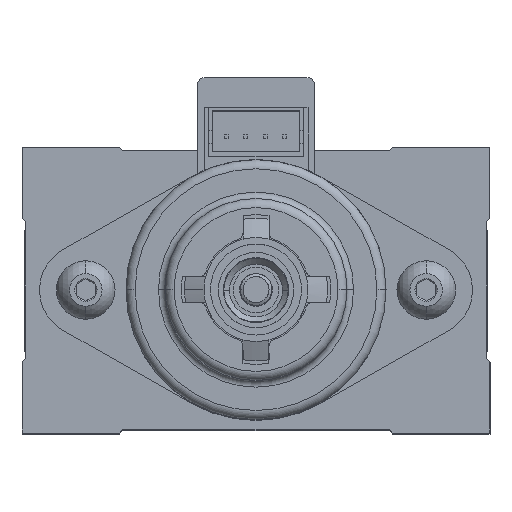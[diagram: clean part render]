
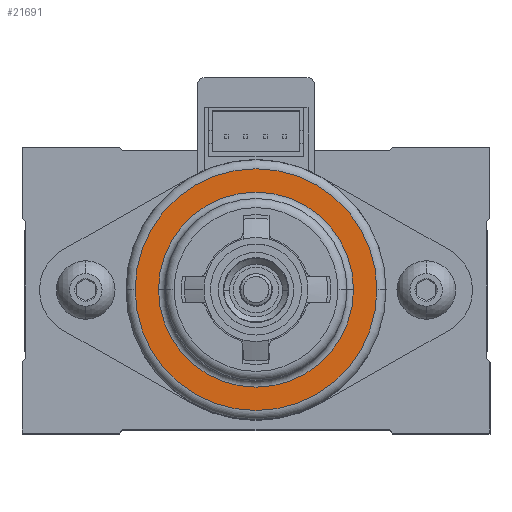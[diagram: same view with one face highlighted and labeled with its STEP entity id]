
A CAD part, top view. The second image highlights one B-rep face of the part: STEP entity #21691.
In plain terms, the highlighted planar face has unit normal (0, 0, 1).
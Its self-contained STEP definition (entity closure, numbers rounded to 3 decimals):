
#752 = DIRECTION ( 'NONE',  ( -1., 0., 0. ) ) ;
#955 = AXIS2_PLACEMENT_3D ( 'NONE', #29031, #4886, #21432 ) ;
#3091 = CARTESIAN_POINT ( 'NONE',  ( -9.3, 0., 7.21 ) ) ;
#3826 = CIRCLE ( 'NONE', #8386, 9.3 ) ;
#4886 = DIRECTION ( 'NONE',  ( 0., 0., -1. ) ) ;
#5105 = AXIS2_PLACEMENT_3D ( 'NONE', #14670, #9753, #29150 ) ;
#5634 = EDGE_CURVE ( 'NONE', #20329, #22078, #12265, .T. ) ;
#8386 = AXIS2_PLACEMENT_3D ( 'NONE', #25562, #23456, #11217 ) ;
#8478 = EDGE_LOOP ( 'NONE', ( #10186, #28695 ) ) ;
#8898 = EDGE_CURVE ( 'NONE', #22078, #20329, #3826, .T. ) ;
#9753 = DIRECTION ( 'NONE',  ( 0., 0., 1. ) ) ;
#10186 = ORIENTED_EDGE ( 'NONE', *, *, #5634, .F. ) ;
#11073 = CARTESIAN_POINT ( 'NONE',  ( 9.3, 0., 7.21 ) ) ;
#11217 = DIRECTION ( 'NONE',  ( -1., 0., 0. ) ) ;
#11749 = CARTESIAN_POINT ( 'NONE',  ( 7.5, 0., 7.21 ) ) ;
#12265 = CIRCLE ( 'NONE', #28908, 9.3 ) ;
#13946 = DIRECTION ( 'NONE',  ( 0., 0., -1. ) ) ;
#14670 = CARTESIAN_POINT ( 'NONE',  ( 0., 9.3, 7.21 ) ) ;
#15013 = ORIENTED_EDGE ( 'NONE', *, *, #25656, .T. ) ;
#16615 = CARTESIAN_POINT ( 'NONE',  ( 0., 0., 7.21 ) ) ;
#16778 = DIRECTION ( 'NONE',  ( -1., 0., 0. ) ) ;
#17442 = EDGE_CURVE ( 'NONE', #26436, #30766, #26102, .T. ) ;
#19077 = CARTESIAN_POINT ( 'NONE',  ( -7.5, 0., 7.21 ) ) ;
#19131 = AXIS2_PLACEMENT_3D ( 'NONE', #16615, #13946, #16778 ) ;
#19876 = PLANE ( 'NONE',  #5105 ) ;
#20329 = VERTEX_POINT ( 'NONE', #3091 ) ;
#21432 = DIRECTION ( 'NONE',  ( -1., 0., 0. ) ) ;
#21691 = ADVANCED_FACE ( 'NONE', ( #28075, #30019 ), #19876, .T. ) ;
#22078 = VERTEX_POINT ( 'NONE', #11073 ) ;
#22298 = DIRECTION ( 'NONE',  ( 0., 0., -1. ) ) ;
#23456 = DIRECTION ( 'NONE',  ( 0., 0., -1. ) ) ;
#23728 = EDGE_LOOP ( 'NONE', ( #15013, #24006 ) ) ;
#24006 = ORIENTED_EDGE ( 'NONE', *, *, #17442, .T. ) ;
#24697 = CARTESIAN_POINT ( 'NONE',  ( 0., 0., 7.21 ) ) ;
#25562 = CARTESIAN_POINT ( 'NONE',  ( 0., 0., 7.21 ) ) ;
#25656 = EDGE_CURVE ( 'NONE', #30766, #26436, #28140, .T. ) ;
#26102 = CIRCLE ( 'NONE', #955, 7.5 ) ;
#26436 = VERTEX_POINT ( 'NONE', #11749 ) ;
#28075 = FACE_BOUND ( 'NONE', #23728, .T. ) ;
#28140 = CIRCLE ( 'NONE', #19131, 7.5 ) ;
#28695 = ORIENTED_EDGE ( 'NONE', *, *, #8898, .F. ) ;
#28908 = AXIS2_PLACEMENT_3D ( 'NONE', #24697, #22298, #752 ) ;
#29031 = CARTESIAN_POINT ( 'NONE',  ( 0., 0., 7.21 ) ) ;
#29150 = DIRECTION ( 'NONE',  ( 1., 0., 0. ) ) ;
#30019 = FACE_OUTER_BOUND ( 'NONE', #8478, .T. ) ;
#30766 = VERTEX_POINT ( 'NONE', #19077 ) ;
